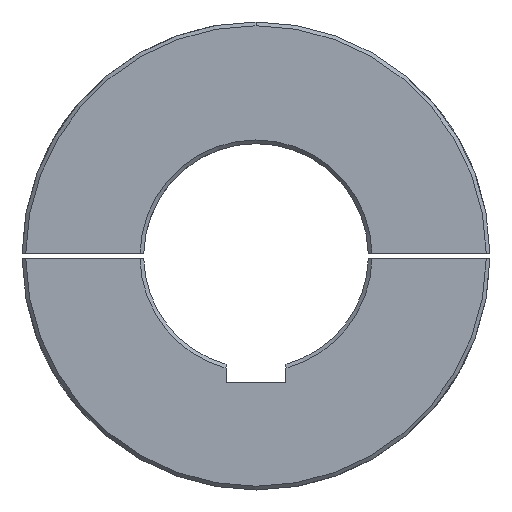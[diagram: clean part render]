
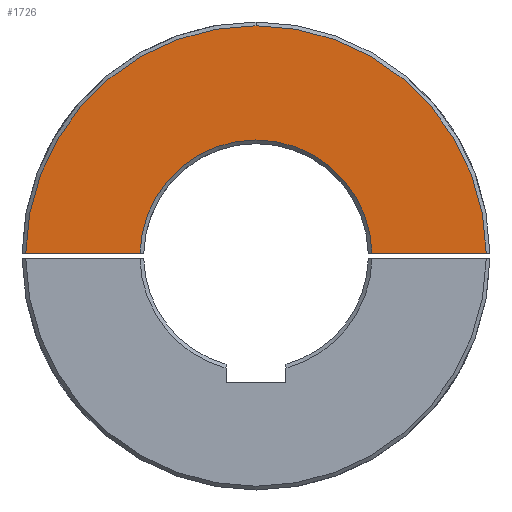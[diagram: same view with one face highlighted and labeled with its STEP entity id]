
A CAD part, front view. The second image highlights one B-rep face of the part: STEP entity #1726.
In plain terms, the highlighted planar face has unit normal (0, -1, 0).
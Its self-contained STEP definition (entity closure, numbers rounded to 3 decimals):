
#148 = DIRECTION ( 'NONE',  ( -1., 0., 0. ) ) ;
#490 = ORIENTED_EDGE ( 'NONE', *, *, #1513, .T. ) ;
#672 = AXIS2_PLACEMENT_3D ( 'NONE', #3362, #3485, #1073 ) ;
#917 = EDGE_CURVE ( 'NONE', #3725, #6114, #6751, .T. ) ;
#943 = AXIS2_PLACEMENT_3D ( 'NONE', #2765, #1471, #2179 ) ;
#1073 = DIRECTION ( 'NONE',  ( 0., 0., 1. ) ) ;
#1095 = ORIENTED_EDGE ( 'NONE', *, *, #7137, .F. ) ;
#1442 = ORIENTED_EDGE ( 'NONE', *, *, #3807, .F. ) ;
#1471 = DIRECTION ( 'NONE',  ( 0., -1., 0. ) ) ;
#1513 = EDGE_CURVE ( 'NONE', #4340, #4699, #3067, .T. ) ;
#1561 = AXIS2_PLACEMENT_3D ( 'NONE', #7659, #6981, #1696 ) ;
#1696 = DIRECTION ( 'NONE',  ( 0., 0., 1. ) ) ;
#1726 = ADVANCED_FACE ( 'NONE', ( #3945 ), #2759, .F. ) ;
#2018 = DIRECTION ( 'NONE',  ( 0., 1., 0. ) ) ;
#2161 = CARTESIAN_POINT ( 'NONE',  ( 0., 0., 123. ) ) ;
#2179 = DIRECTION ( 'NONE',  ( 0., 0., 1. ) ) ;
#2260 = CARTESIAN_POINT ( 'NONE',  ( 130., 0., 1.5 ) ) ;
#2759 = PLANE ( 'NONE',  #1561 ) ;
#2765 = CARTESIAN_POINT ( 'NONE',  ( 0., 0., 0. ) ) ;
#2970 = ORIENTED_EDGE ( 'NONE', *, *, #917, .T. ) ;
#3002 = LINE ( 'NONE', #2260, #6657 ) ;
#3067 = CIRCLE ( 'NONE', #672, 123. ) ;
#3239 = CARTESIAN_POINT ( 'NONE',  ( -61.982, 0., 1.5 ) ) ;
#3353 = VECTOR ( 'NONE', #148, 1000. ) ;
#3362 = CARTESIAN_POINT ( 'NONE',  ( 0., 0., 0. ) ) ;
#3485 = DIRECTION ( 'NONE',  ( 0., -1., 0. ) ) ;
#3725 = VERTEX_POINT ( 'NONE', #3239 ) ;
#3756 = EDGE_CURVE ( 'NONE', #4572, #4340, #6409, .T. ) ;
#3807 = EDGE_CURVE ( 'NONE', #4572, #6114, #3002, .T. ) ;
#3869 = EDGE_LOOP ( 'NONE', ( #5008, #490, #1095, #2970, #1442 ) ) ;
#3875 = LINE ( 'NONE', #6863, #3353 ) ;
#3945 = FACE_OUTER_BOUND ( 'NONE', #3869, .T. ) ;
#4213 = AXIS2_PLACEMENT_3D ( 'NONE', #5040, #2018, #4440 ) ;
#4340 = VERTEX_POINT ( 'NONE', #2161 ) ;
#4440 = DIRECTION ( 'NONE',  ( 0., 0., 1. ) ) ;
#4572 = VERTEX_POINT ( 'NONE', #7855 ) ;
#4699 = VERTEX_POINT ( 'NONE', #6258 ) ;
#5008 = ORIENTED_EDGE ( 'NONE', *, *, #3756, .T. ) ;
#5040 = CARTESIAN_POINT ( 'NONE',  ( 0., 0., 0. ) ) ;
#6114 = VERTEX_POINT ( 'NONE', #6956 ) ;
#6258 = CARTESIAN_POINT ( 'NONE',  ( -122.991, 0., 1.5 ) ) ;
#6409 = CIRCLE ( 'NONE', #943, 123. ) ;
#6626 = DIRECTION ( 'NONE',  ( -1., 0., 0. ) ) ;
#6657 = VECTOR ( 'NONE', #6626, 1000. ) ;
#6751 = CIRCLE ( 'NONE', #4213, 62. ) ;
#6863 = CARTESIAN_POINT ( 'NONE',  ( 130., 0., 1.5 ) ) ;
#6956 = CARTESIAN_POINT ( 'NONE',  ( 61.982, 0., 1.5 ) ) ;
#6981 = DIRECTION ( 'NONE',  ( 0., 1., 0. ) ) ;
#7137 = EDGE_CURVE ( 'NONE', #3725, #4699, #3875, .T. ) ;
#7659 = CARTESIAN_POINT ( 'NONE',  ( 0., 0., 0. ) ) ;
#7855 = CARTESIAN_POINT ( 'NONE',  ( 122.991, 0., 1.5 ) ) ;
